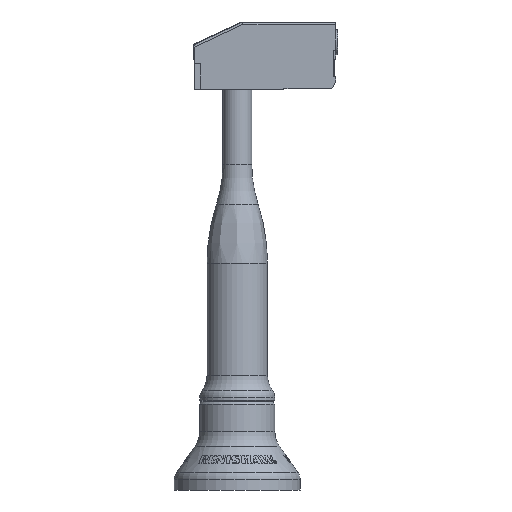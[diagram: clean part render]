
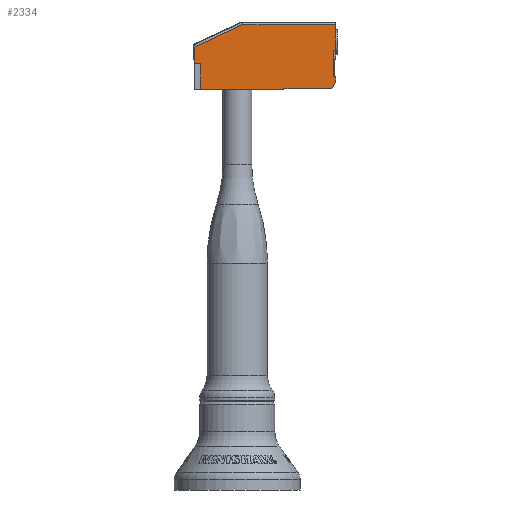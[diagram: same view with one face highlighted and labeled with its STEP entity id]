
A CAD part, left-side view. The second image highlights one B-rep face of the part: STEP entity #2334.
In plain terms, the highlighted planar face has unit normal (-1, 0, 0).
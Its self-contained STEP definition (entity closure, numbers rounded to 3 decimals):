
#2334=ADVANCED_FACE('',(#2920),#2593,.T.);
#2593=PLANE('',#10517);
#2920=FACE_OUTER_BOUND('',#3311,.T.);
#3311=EDGE_LOOP('',(#6890,#6891,#6892,#6893,#6894,#6895,#6896,#6897,#6898,
#6899,#6900,#6901,#6902,#6903));
#3422=LINE('',#12299,#4086);
#3428=LINE('',#12311,#4092);
#3877=LINE('',#16147,#4541);
#3882=LINE('',#16157,#4546);
#3884=LINE('',#16161,#4548);
#3888=LINE('',#16169,#4552);
#3890=LINE('',#16173,#4554);
#3891=LINE('',#16175,#4555);
#3893=LINE('',#16179,#4557);
#3896=LINE('',#16188,#4560);
#3916=LINE('',#16226,#4580);
#3918=LINE('',#16230,#4582);
#3919=LINE('',#16232,#4583);
#3920=LINE('',#16233,#4584);
#4086=VECTOR('',#10651,1.);
#4092=VECTOR('',#10661,1.);
#4541=VECTOR('',#11790,1.);
#4546=VECTOR('',#11797,1.);
#4548=VECTOR('',#11801,1.);
#4552=VECTOR('',#11807,1.);
#4554=VECTOR('',#11811,1.);
#4555=VECTOR('',#11814,1.);
#4557=VECTOR('',#11818,1.);
#4560=VECTOR('',#11827,1.);
#4580=VECTOR('',#11859,1.);
#4582=VECTOR('',#11863,1.);
#4583=VECTOR('',#11864,1.);
#4584=VECTOR('',#11865,1.);
#6890=ORIENTED_EDGE('',*,*,#9457,.T.);
#6891=ORIENTED_EDGE('',*,*,#9458,.T.);
#6892=ORIENTED_EDGE('',*,*,#9415,.F.);
#6893=ORIENTED_EDGE('',*,*,#9420,.F.);
#6894=ORIENTED_EDGE('',*,*,#9435,.T.);
#6895=ORIENTED_EDGE('',*,*,#9459,.T.);
#6896=ORIENTED_EDGE('',*,*,#9455,.T.);
#6897=ORIENTED_EDGE('',*,*,#9422,.T.);
#6898=ORIENTED_EDGE('',*,*,#9426,.T.);
#6899=ORIENTED_EDGE('',*,*,#9428,.T.);
#6900=ORIENTED_EDGE('',*,*,#9429,.T.);
#6901=ORIENTED_EDGE('',*,*,#8374,.T.);
#6902=ORIENTED_EDGE('',*,*,#8368,.F.);
#6903=ORIENTED_EDGE('',*,*,#9431,.T.);
#7344=VERTEX_POINT('',#12294);
#7346=VERTEX_POINT('',#12298);
#7351=VERTEX_POINT('',#12312);
#8188=VERTEX_POINT('',#16148);
#8189=VERTEX_POINT('',#16149);
#8191=VERTEX_POINT('',#16156);
#8192=VERTEX_POINT('',#16160);
#8193=VERTEX_POINT('',#16162);
#8195=VERTEX_POINT('',#16168);
#8196=VERTEX_POINT('',#16172);
#8197=VERTEX_POINT('',#16178);
#8200=VERTEX_POINT('',#16187);
#8213=VERTEX_POINT('',#16227);
#8214=VERTEX_POINT('',#16231);
#8368=EDGE_CURVE('',#7346,#7344,#3422,.T.);
#8374=EDGE_CURVE('',#7351,#7344,#3428,.T.);
#9415=EDGE_CURVE('',#8188,#8189,#3877,.T.);
#9420=EDGE_CURVE('',#8191,#8188,#3882,.T.);
#9422=EDGE_CURVE('',#8193,#8192,#3884,.T.);
#9426=EDGE_CURVE('',#8192,#8195,#3888,.T.);
#9428=EDGE_CURVE('',#8195,#8196,#3890,.T.);
#9429=EDGE_CURVE('',#8196,#7351,#3891,.T.);
#9431=EDGE_CURVE('',#7346,#8197,#3893,.T.);
#9435=EDGE_CURVE('',#8191,#8200,#3896,.T.);
#9455=EDGE_CURVE('',#8213,#8193,#3916,.T.);
#9457=EDGE_CURVE('',#8197,#8214,#3918,.T.);
#9458=EDGE_CURVE('',#8214,#8189,#3919,.T.);
#9459=EDGE_CURVE('',#8200,#8213,#3920,.T.);
#10517=AXIS2_PLACEMENT_3D('',#16234,#11866,#11867);
#10651=DIRECTION('',(0.,1.,0.));
#10661=DIRECTION('',(0.,0.,1.));
#11790=DIRECTION('',(0.,0.,1.));
#11797=DIRECTION('',(0.,1.,0.));
#11801=DIRECTION('',(0.,-1.,0.));
#11807=DIRECTION('',(0.,-0.5,0.866));
#11811=DIRECTION('',(0.,0.,1.));
#11814=DIRECTION('',(0.,1.,0.));
#11818=DIRECTION('',(0.,0.,1.));
#11827=DIRECTION('',(0.,0.,-1.));
#11859=DIRECTION('',(0.,0.,1.));
#11863=DIRECTION('',(0.,1.,0.));
#11864=DIRECTION('',(0.,0.906,-0.423));
#11865=DIRECTION('',(0.,-1.,0.));
#11866=DIRECTION('',(-1.,0.,0.));
#11867=DIRECTION('',(0.,0.,-1.));
#12294=CARTESIAN_POINT('',(-18.569,-7.75,5.4));
#12298=CARTESIAN_POINT('',(-18.569,-8.75,5.4));
#12299=CARTESIAN_POINT('',(-18.569,-7.75,5.4));
#12311=CARTESIAN_POINT('',(-18.569,-7.75,-5.));
#12312=CARTESIAN_POINT('',(-18.569,-7.75,-5.));
#16147=CARTESIAN_POINT('',(-18.569,47.25,0.15));
#16148=CARTESIAN_POINT('',(-18.569,47.25,0.15));
#16149=CARTESIAN_POINT('',(-18.569,47.25,6.687));
#16156=CARTESIAN_POINT('',(-18.569,44.75,0.15));
#16157=CARTESIAN_POINT('',(-18.569,44.75,0.15));
#16160=CARTESIAN_POINT('',(-18.569,-7.25,-9.85));
#16161=CARTESIAN_POINT('',(-18.569,11.75,-9.85));
#16162=CARTESIAN_POINT('',(-18.569,11.75,-9.85));
#16168=CARTESIAN_POINT('',(-18.569,-8.75,-7.252));
#16169=CARTESIAN_POINT('',(-18.569,-7.25,-9.85));
#16172=CARTESIAN_POINT('',(-18.569,-8.75,-5.));
#16173=CARTESIAN_POINT('',(-18.569,-8.75,-7.252));
#16175=CARTESIAN_POINT('',(-18.569,-8.75,-5.));
#16178=CARTESIAN_POINT('',(-18.569,-8.75,15.65));
#16179=CARTESIAN_POINT('',(-18.569,-8.75,-5.));
#16187=CARTESIAN_POINT('',(-18.569,44.75,-10.1));
#16188=CARTESIAN_POINT('',(-18.569,44.75,5.4));
#16226=CARTESIAN_POINT('',(-18.569,11.75,-10.1));
#16227=CARTESIAN_POINT('',(-18.569,11.75,-10.1));
#16230=CARTESIAN_POINT('',(-18.569,41.05,15.65));
#16231=CARTESIAN_POINT('',(-18.569,28.028,15.65));
#16232=CARTESIAN_POINT('',(-18.569,46.978,6.813));
#16233=CARTESIAN_POINT('',(-18.569,44.75,-10.1));
#16234=CARTESIAN_POINT('',(-18.569,41.05,-5.9));
